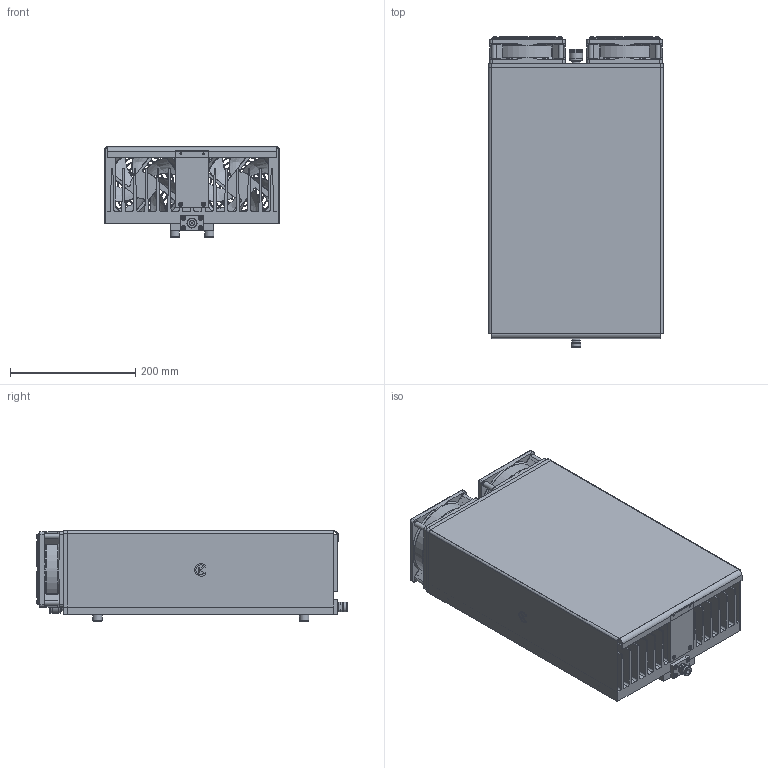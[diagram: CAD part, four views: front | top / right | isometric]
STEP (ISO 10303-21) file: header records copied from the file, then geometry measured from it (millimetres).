
FILE_DESCRIPTION(('STEP AP203'), '1');
FILE_NAME('栖闉罻 1500 鎗', '', ('UNSPECIFIED'), ('UNSPECIFIED'), 'C3D Converter', 'C3D Toolkit', '');
FILE_SCHEMA(('CONFIG_CONTROL_DESIGN'));
Length unit declared in the file: millimetre
Products named in the file (21): -01; Вентилятор 120x120x25; Вентилятор_винт 120х120х25; Вентилятор_основа 120х120х25
Assembly tree (57 placements, depth 3):
  (unnamed)
    (unnamed)
    (unnamed)
    (unnamed)
    (unnamed)
    (unnamed)
    (unnamed)
    -01
    (unnamed)
    Вентилятор 120x120x25  x2
      Вентилятор_винт 120х120х25
      Вентилятор_основа 120х120х25
    (unnamed)  x10
    -01  x6
    (unnamed)
    -01
    (unnamed)  x21
    (unnamed)  x2
    -01  x2
    (unnamed)
    (unnamed)
Bounding box: 278 x 495 x 144 mm (x, y, z)
Volume: 4932615.7 mm3; surface area: 1904028.6 mm2
Topology: 57 solids, 57 shells, 3043 faces, 8153 edges, 4968 vertices
Faces by surface type: plane 1181, bspline 816, cylinder 713, torus 193, cone 140
Full cylindrical faces by diameter (mm): 1.65 x1, 1.66 x1, 2.459 x25, 2.5 x3, 3 x22, 3.04 x2, 3.2 x2, 3.242 x8, 3.5 x8, 4.134 x16, 5 x16, 5.5 x57, 6 x1, 7 x12, 8 x1, 8.04 x1, 8.06 x1, 8.5 x20, 9 x1, 10 x17, 11.6 x2, 12.7 x1, 14 x2, 14.94 x1, 15 x4, 15.75 x1, 15.87 x1, 16 x4, 16.5 x1, 17.46 x1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
Entity records: 83677 total; most frequent: CARTESIAN_POINT 25155, ORIENTED_EDGE 9142, DIRECTION 8128, EDGE_CURVE 4571, AXIS2_PLACEMENT_3D 3108, VERTEX_POINT 3037, EDGE_LOOP 2402, FACE_BOUND 2105
